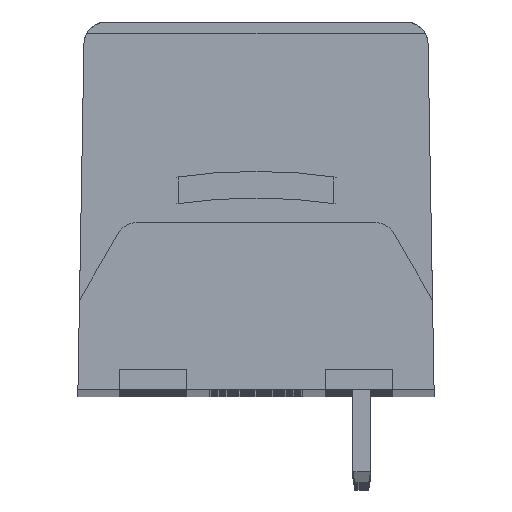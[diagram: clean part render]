
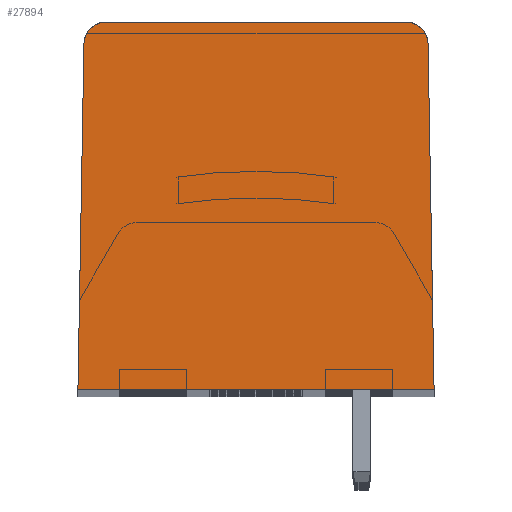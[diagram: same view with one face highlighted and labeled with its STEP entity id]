
A CAD part, top view. The second image highlights one B-rep face of the part: STEP entity #27894.
In plain terms, the highlighted planar face has unit normal (0, 0, 1).
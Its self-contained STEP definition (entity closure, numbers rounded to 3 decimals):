
#11447 = CARTESIAN_POINT ( 'NONE',  ( 3.453, 8.084, 0. ) ) ;
#11449 = DIRECTION ( 'NONE',  ( -1., 0., 0. ) ) ;
#11450 = DIRECTION ( 'NONE',  ( 0., 0., -1. ) ) ;
#11452 = AXIS2_PLACEMENT_3D ( 'NONE', #11460, #11450, #11449 ) ;
#11453 = CIRCLE ( 'NONE', #11452, 1. ) ;
#11460 = CARTESIAN_POINT ( 'NONE',  ( 2.453, 8.066, 0. ) ) ;
#15843 = DIRECTION ( 'NONE',  ( 0.017, 1., 0. ) ) ;
#15845 = VECTOR ( 'NONE', #15843, 1000. ) ;
#15847 = CARTESIAN_POINT ( 'NONE',  ( -12.276, -7.434, 0. ) ) ;
#15849 = LINE ( 'NONE', #15847, #15845 ) ;
#15852 = CARTESIAN_POINT ( 'NONE',  ( -12.276, -7.434, 0. ) ) ;
#16296 = CARTESIAN_POINT ( 'NONE',  ( 3.724, -7.434, 0. ) ) ;
#16298 = DIRECTION ( 'NONE',  ( 1., 0., 0. ) ) ;
#16300 = VECTOR ( 'NONE', #16298, 1000. ) ;
#16302 = CARTESIAN_POINT ( 'NONE',  ( 3.82, -7.434, 0. ) ) ;
#16303 = LINE ( 'NONE', #16302, #16300 ) ;
#16361 = DIRECTION ( 'NONE',  ( 0.017, -1., 0. ) ) ;
#16363 = VECTOR ( 'NONE', #16361, 1000. ) ;
#16365 = CARTESIAN_POINT ( 'NONE',  ( 3.588, 0.325, 0. ) ) ;
#16366 = LINE ( 'NONE', #16365, #16363 ) ;
#16410 = DIRECTION ( 'NONE',  ( -1., 0., 0. ) ) ;
#16412 = DIRECTION ( 'NONE',  ( 0., 0., -1. ) ) ;
#16414 = CARTESIAN_POINT ( 'NONE',  ( 3.82, -7.434, 0. ) ) ;
#16416 = AXIS2_PLACEMENT_3D ( 'NONE', #16414, #16412, #16410 ) ;
#16417 = PLANE ( 'NONE',  #16416 ) ;
#16421 = FACE_OUTER_BOUND ( 'NONE', #27895, .T. ) ;
#24090 = EDGE_CURVE ( 'NONE', #31886, #24096, #11453, .T. ) ;
#24096 = VERTEX_POINT ( 'NONE', #11447 ) ;
#25830 = VECTOR ( 'NONE', #25975, 1000. ) ;
#25832 = CARTESIAN_POINT ( 'NONE',  ( -4.276, 9.066, 0. ) ) ;
#25834 = LINE ( 'NONE', #25832, #25830 ) ;
#25852 = CARTESIAN_POINT ( 'NONE',  ( -11.006, 9.066, 0. ) ) ;
#25973 = CARTESIAN_POINT ( 'NONE',  ( 2.453, 9.066, 0. ) ) ;
#25975 = DIRECTION ( 'NONE',  ( 1., 0., 0. ) ) ;
#26048 = CIRCLE ( 'NONE', #26193, 1. ) ;
#26082 = CARTESIAN_POINT ( 'NONE',  ( -12.005, 8.084, 0. ) ) ;
#26188 = DIRECTION ( 'NONE',  ( -1., 0., 0. ) ) ;
#26189 = DIRECTION ( 'NONE',  ( 0., 0., -1. ) ) ;
#26191 = CARTESIAN_POINT ( 'NONE',  ( -11.006, 8.066, 0. ) ) ;
#26193 = AXIS2_PLACEMENT_3D ( 'NONE', #26191, #26189, #26188 ) ;
#27452 = VERTEX_POINT ( 'NONE', #15852 ) ;
#27458 = EDGE_CURVE ( 'NONE', #27452, #31949, #15849, .T. ) ;
#27746 = ORIENTED_EDGE ( 'NONE', *, *, #27458, .F. ) ;
#27751 = ORIENTED_EDGE ( 'NONE', *, *, #27754, .T. ) ;
#27754 = EDGE_CURVE ( 'NONE', #27452, #27759, #16303, .T. ) ;
#27759 = VERTEX_POINT ( 'NONE', #16296 ) ;
#27827 = EDGE_CURVE ( 'NONE', #24096, #27759, #16366, .T. ) ;
#27832 = ORIENTED_EDGE ( 'NONE', *, *, #24090, .F. ) ;
#27835 = ORIENTED_EDGE ( 'NONE', *, *, #31883, .F. ) ;
#27837 = ORIENTED_EDGE ( 'NONE', *, *, #31957, .F. ) ;
#27894 = ADVANCED_FACE ( 'NONE', ( #16421 ), #16417, .F. ) ;
#27895 = EDGE_LOOP ( 'NONE', ( #27746, #27751, #27977, #27832, #27835, #27837 ) ) ;
#27977 = ORIENTED_EDGE ( 'NONE', *, *, #27827, .F. ) ;
#31877 = VERTEX_POINT ( 'NONE', #25852 ) ;
#31883 = EDGE_CURVE ( 'NONE', #31877, #31886, #25834, .T. ) ;
#31886 = VERTEX_POINT ( 'NONE', #25973 ) ;
#31949 = VERTEX_POINT ( 'NONE', #26082 ) ;
#31957 = EDGE_CURVE ( 'NONE', #31949, #31877, #26048, .T. ) ;
